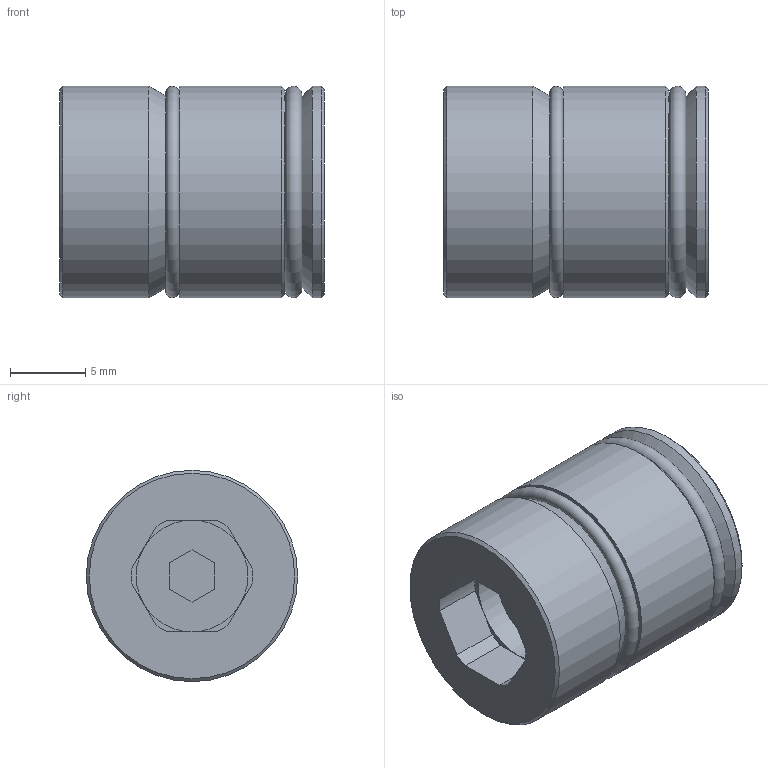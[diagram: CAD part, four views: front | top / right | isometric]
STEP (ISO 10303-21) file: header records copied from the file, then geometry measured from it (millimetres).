
FILE_DESCRIPTION( ( 'STEP AP214' ), '1' );
FILE_NAME( 'p:/temp/worker_257/temp/exporttempdir_4644_227_RBXFq/format_0/TRI-14.stp', '2021-02-05T19:28:08', ( 'License CC BY-ND 4.0' ), ( 'CADENAS' ), ' ', 'PARTsolutions', ' ' );
FILE_SCHEMA( ( 'AUTOMOTIVE_DESIGN { 1 0 10303 214 1 1 1 1 }' ) );
Length unit declared in the file: millimetre
Products named in the file (1): _TRI-14
Bounding box: 17.5 x 14 x 14 mm (x, y, z)
Volume: 2389.8 mm3; surface area: 1360.4 mm2
Topology: 1 solids, 1 shells, 41 faces, 91 edges, 56 vertices
Faces by surface type: plane 24, cylinder 10, cone 5, torus 2
Full cylindrical faces by diameter (mm): 7.4 x1, 14 x3
Entity records: 1422 total; most frequent: DIRECTION 196, CARTESIAN_POINT 180, ORIENTED_EDGE 160, EDGE_CURVE 80, AXIS2_PLACEMENT_3D 74, VERTEX_POINT 58, EDGE_LOOP 56, LINE 48
